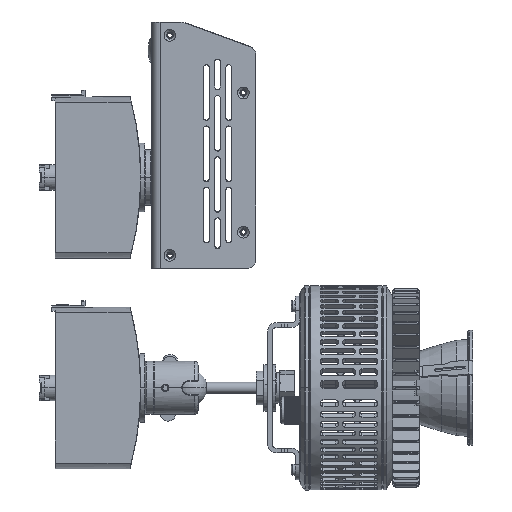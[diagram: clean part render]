
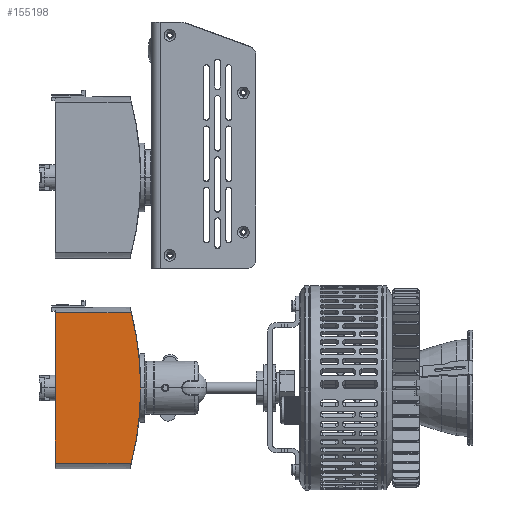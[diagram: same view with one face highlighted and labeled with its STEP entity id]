
A CAD part, left-side view. The second image highlights one B-rep face of the part: STEP entity #155198.
In plain terms, the highlighted planar face has unit normal (-1, 0, -0.003) as drawn and (0, 0, 1) by its records, which use the part's own axes.
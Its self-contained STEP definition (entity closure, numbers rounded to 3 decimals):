
#1307 = CARTESIAN_POINT ( 'NONE',  ( -0.227, -25.483, 18.5 ) ) ;
#2316 = CARTESIAN_POINT ( 'NONE',  ( -0.027, -25.498, 18.5 ) ) ;
#3326 = CARTESIAN_POINT ( 'NONE',  ( -0.492, -25.463, 18.5 ) ) ;
#4379 = CARTESIAN_POINT ( 'NONE',  ( -1.211, -25.415, 18.5 ) ) ;
#9723 = LINE ( 'NONE', #54723, #130361 ) ;
#16898 = EDGE_CURVE ( 'NONE', #161126, #186526, #195291, .T. ) ;
#18165 = CARTESIAN_POINT ( 'NONE',  ( -40.428, 20.5, 18.5 ) ) ;
#18197 = ORIENTED_EDGE ( 'NONE', *, *, #107227, .T. ) ;
#20011 = EDGE_LOOP ( 'NONE', ( #18197, #110375, #84892, #197175, #42313, #190349, #29515 ) ) ;
#21544 = CARTESIAN_POINT ( 'NONE',  ( 40.428, 141.025, 18.5 ) ) ;
#26781 = EDGE_CURVE ( 'NONE', #82455, #65771, #163456, .T. ) ;
#28447 = CARTESIAN_POINT ( 'NONE',  ( 1.92, -25.389, 18.5 ) ) ;
#29515 = ORIENTED_EDGE ( 'NONE', *, *, #16898, .T. ) ;
#32986 = CARTESIAN_POINT ( 'NONE',  ( 0., -25.5, 18.5 ) ) ;
#39160 = CARTESIAN_POINT ( 'NONE',  ( 0., 141.025, 18.5 ) ) ;
#42313 = ORIENTED_EDGE ( 'NONE', *, *, #125650, .T. ) ;
#43796 = CARTESIAN_POINT ( 'NONE',  ( 0.32, -25.476, 18.5 ) ) ;
#44370 = EDGE_CURVE ( 'NONE', #48543, #82455, #59978, .T. ) ;
#48543 = VERTEX_POINT ( 'NONE', #201367 ) ;
#49307 = CARTESIAN_POINT ( 'NONE',  ( -0.018, -25.499, 18.5 ) ) ;
#51453 = CIRCLE ( 'NONE', #103632, 166.425 ) ;
#53719 = DIRECTION ( 'NONE',  ( -1., 0., 0. ) ) ;
#54723 = CARTESIAN_POINT ( 'NONE',  ( -40.5, 20.5, 18.5 ) ) ;
#57639 = LINE ( 'NONE', #121904, #71825 ) ;
#59303 = CARTESIAN_POINT ( 'NONE',  ( 40.428, -20.415, 18.5 ) ) ;
#59978 = CIRCLE ( 'NONE', #174220, 166.425 ) ;
#60175 = CARTESIAN_POINT ( 'NONE',  ( 1.599, -25.393, 18.5 ) ) ;
#63634 = CARTESIAN_POINT ( 'NONE',  ( -0.009, -25.499, 18.5 ) ) ;
#65771 = VERTEX_POINT ( 'NONE', #126524 ) ;
#68796 = DIRECTION ( 'NONE',  ( 1., 0., 0. ) ) ;
#71825 = VECTOR ( 'NONE', #138291, 1000. ) ;
#75431 = CARTESIAN_POINT ( 'NONE',  ( 0., -25.5, 18.5 ) ) ;
#82455 = VERTEX_POINT ( 'NONE', #162748 ) ;
#84892 = ORIENTED_EDGE ( 'NONE', *, *, #44370, .T. ) ;
#93066 = CARTESIAN_POINT ( 'NONE',  ( 0., 141.025, 18.5 ) ) ;
#95939 = EDGE_CURVE ( 'NONE', #173380, #48543, #57639, .T. ) ;
#103632 = AXIS2_PLACEMENT_3D ( 'NONE', #179095, #129975, #192412 ) ;
#104672 = EDGE_CURVE ( 'NONE', #124968, #161126, #51453, .T. ) ;
#106072 = CARTESIAN_POINT ( 'NONE',  ( 1.279, -25.41, 18.5 ) ) ;
#107227 = EDGE_CURVE ( 'NONE', #186526, #173380, #9723, .T. ) ;
#107864 = VECTOR ( 'NONE', #118561, 1000. ) ;
#110375 = ORIENTED_EDGE ( 'NONE', *, *, #95939, .T. ) ;
#111617 = CARTESIAN_POINT ( 'NONE',  ( -0.094, -25.493, 18.5 ) ) ;
#111622 = CARTESIAN_POINT ( 'NONE',  ( 1.92, -25.389, 18.5 ) ) ;
#118561 = DIRECTION ( 'NONE',  ( 0., 1., 0. ) ) ;
#121780 = DIRECTION ( 'NONE',  ( 0., 0., 1. ) ) ;
#121904 = CARTESIAN_POINT ( 'NONE',  ( -40.428, -20.5, 18.5 ) ) ;
#124968 = VERTEX_POINT ( 'NONE', #111622 ) ;
#125454 = CARTESIAN_POINT ( 'NONE',  ( 0.639, -25.452, 18.5 ) ) ;
#125650 = EDGE_CURVE ( 'NONE', #65771, #124968, #176152, .T. ) ;
#125939 = CARTESIAN_POINT ( 'NONE',  ( -1.025, -25.427, 18.5 ) ) ;
#126524 = CARTESIAN_POINT ( 'NONE',  ( 0., -25.5, 18.5 ) ) ;
#128979 = CARTESIAN_POINT ( 'NONE',  ( -1.584, -25.398, 18.5 ) ) ;
#129975 = DIRECTION ( 'NONE',  ( 0., 0., 1. ) ) ;
#130361 = VECTOR ( 'NONE', #53719, 1000. ) ;
#131146 = DIRECTION ( 'NONE',  ( 0., 0., 1. ) ) ;
#138291 = DIRECTION ( 'NONE',  ( 0., -1., 0. ) ) ;
#141285 = CARTESIAN_POINT ( 'NONE',  ( -0.16, -25.488, 18.5 ) ) ;
#143314 = CARTESIAN_POINT ( 'NONE',  ( -1.696, -25.393, 18.5 ) ) ;
#144351 = CARTESIAN_POINT ( 'NONE',  ( -1.92, -25.389, 18.5 ) ) ;
#151526 = PLANE ( 'NONE',  #192238 ) ;
#155198 = ADVANCED_FACE ( 'NONE', ( #199550 ), #151526, .T. ) ;
#160724 = CARTESIAN_POINT ( 'NONE',  ( -0.758, -25.444, 18.5 ) ) ;
#161126 = VERTEX_POINT ( 'NONE', #59303 ) ;
#162748 = CARTESIAN_POINT ( 'NONE',  ( -1.92, -25.389, 18.5 ) ) ;
#163456 = B_SPLINE_CURVE_WITH_KNOTS ( 'NONE', 3,
 ( #144351, #173030, #143314, #128979, #188394, #4379, #125939, #160724, #3326, #1307, #141285, #111617, #2316, #49307, #63634, #32986 ),
 .UNSPECIFIED., .F., .F.,
 ( 4, 3, 3, 3, 3, 4 ),
 ( 0., 0., 0.001, 0.002, 0.002, 0.002 ),
 .UNSPECIFIED. ) ;
#167889 = DIRECTION ( 'NONE',  ( 1., 0., 0. ) ) ;
#173030 = CARTESIAN_POINT ( 'NONE',  ( -1.808, -25.39, 18.5 ) ) ;
#173380 = VERTEX_POINT ( 'NONE', #18165 ) ;
#174220 = AXIS2_PLACEMENT_3D ( 'NONE', #39160, #131146, #68796 ) ;
#176152 = B_SPLINE_CURVE_WITH_KNOTS ( 'NONE', 3,
 ( #75431, #43796, #125454, #106072, #60175, #28447 ),
 .UNSPECIFIED., .F., .F.,
 ( 4, 2, 4 ),
 ( 0., 0.001, 0.002 ),
 .UNSPECIFIED. ) ;
#178712 = CARTESIAN_POINT ( 'NONE',  ( 40.428, 20.5, 18.5 ) ) ;
#179095 = CARTESIAN_POINT ( 'NONE',  ( 0., 141.025, 18.5 ) ) ;
#186526 = VERTEX_POINT ( 'NONE', #178712 ) ;
#188394 = CARTESIAN_POINT ( 'NONE',  ( -1.397, -25.405, 18.5 ) ) ;
#190349 = ORIENTED_EDGE ( 'NONE', *, *, #104672, .T. ) ;
#192238 = AXIS2_PLACEMENT_3D ( 'NONE', #93066, #121780, #167889 ) ;
#192412 = DIRECTION ( 'NONE',  ( 1., 0., 0. ) ) ;
#195291 = LINE ( 'NONE', #21544, #107864 ) ;
#197175 = ORIENTED_EDGE ( 'NONE', *, *, #26781, .T. ) ;
#199550 = FACE_OUTER_BOUND ( 'NONE', #20011, .T. ) ;
#201367 = CARTESIAN_POINT ( 'NONE',  ( -40.428, -20.415, 18.5 ) ) ;
